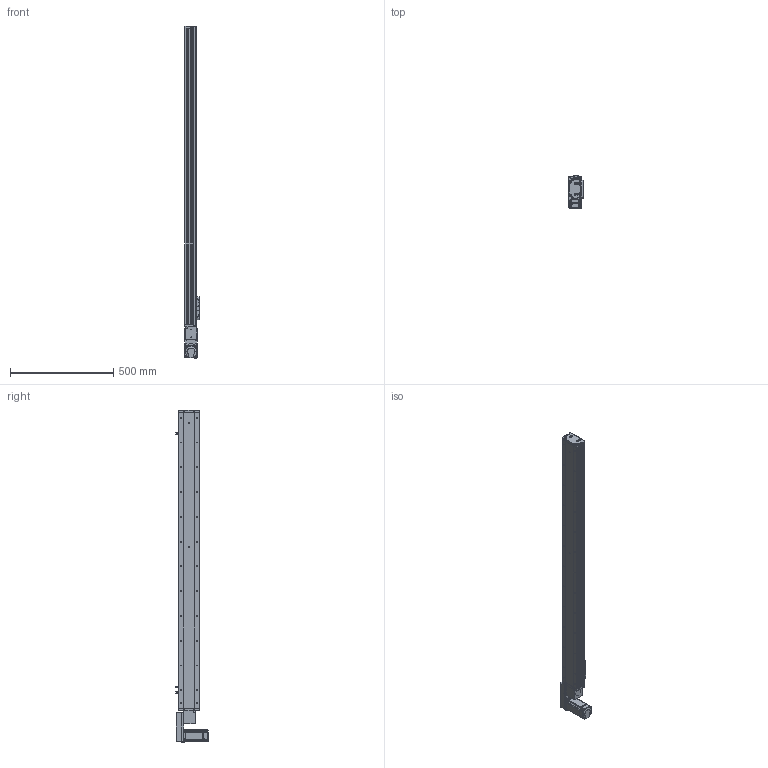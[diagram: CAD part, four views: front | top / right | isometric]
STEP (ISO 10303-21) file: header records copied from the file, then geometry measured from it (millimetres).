
FILE_DESCRIPTION (( 'STEP AP214' ), '1' );
FILE_NAME ('KSD100B-S1250-MLB-CR.STEP', '2019-11-13T01:06:28', ( '微软用户' ), ( '微软中国' ), 'SwSTEP 2.0', 'SolidWorks 2014', '' );
FILE_SCHEMA (( 'AUTOMOTIVE_DESIGN' ));
Length unit declared in the file: millimetre
Products named in the file (15): 100宽端板同步带全封闭; 100宽滚珠螺姆安装板1防护罩; 100宽滚珠螺姆安装板1; 100遵裔啣揤啣; 100遵裔啣1250俴最; 100宽侧板1250行程同步带; 100宽底板全封闭1250行程同步带; KSD100B-S1250-MLB-CR; 悵誘欶奻狟殏; 100宽马达安装板连板上下折丝杆同步带; 感应片100宽全封闭; U倰嫖萇EEㄜSX672; 100宽马达安装板同步带左; 100遵鎮湛假蚾啣蜊; MHMD042G1CA_2_03
Assembly tree (18 placements, depth 2):
  KSD100B-S1250-MLB-CR
    100宽底板全封闭1250行程同步带
    100宽侧板1250行程同步带  x2
    100遵裔啣1250俴最
    100遵裔啣揤啣  x2
    100宽滚珠螺姆安装板1
    100宽滚珠螺姆安装板1防护罩
    100宽端板同步带全封闭
    100遵鎮湛假蚾啣蜊
    100宽马达安装板同步带左
    U倰嫖萇EEㄜSX672  x3
    感应片100宽全封闭
    100宽马达安装板连板上下折丝杆同步带
    悵誘欶奻狟殏
    MHMD042G1CA_2_03
Bounding box: 70 x 156.2 x 1607 mm (x, y, z)
Volume: 2949112.8 mm3; surface area: 1297034.9 mm2
Topology: 17 solids, 18 shells, 1885 faces, 5274 edges, 3351 vertices
Faces by surface type: cylinder 853, plane 737, cone 275, bspline 20
Entity records: 67082 total; most frequent: CARTESIAN_POINT 10354, DIRECTION 9186, ORIENTED_EDGE 8452, EDGE_CURVE 4298, AXIS2_PLACEMENT_3D 3345, VERTEX_POINT 2849, LINE 2496, VECTOR 2496
